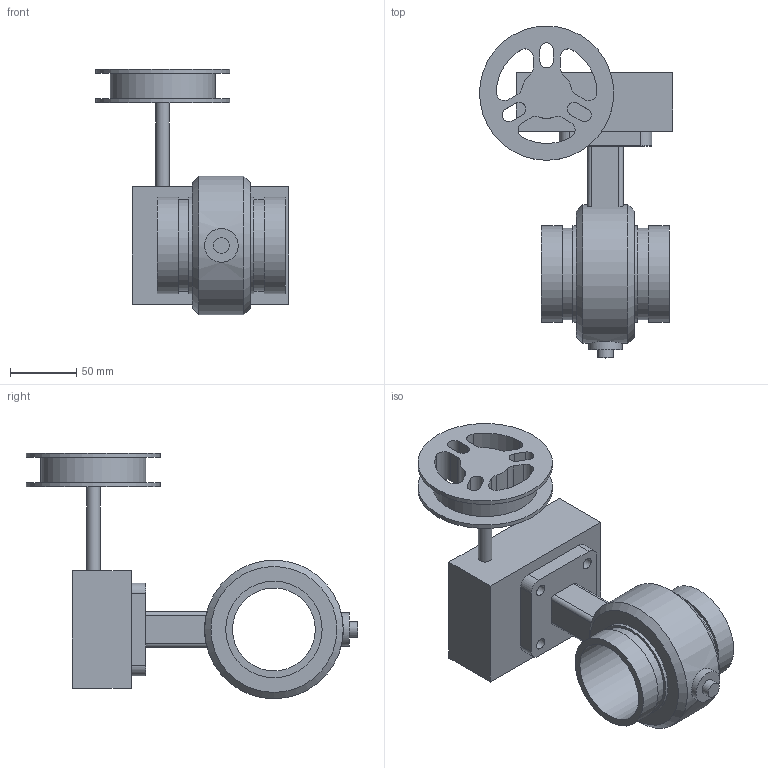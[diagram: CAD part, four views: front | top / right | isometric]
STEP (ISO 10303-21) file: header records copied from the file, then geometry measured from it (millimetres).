
FILE_DESCRIPTION(/* description */ ('VIC SS BUTTERFLY VALVE GO CW SERIES 250-S (OGS)'),/* implementation_level */ '2;1');
FILE_NAME(/* name */ 'C:\Files for Export\250-S\Victaulic_SS_Vlv Btfl GO CW_Series 250-S (OGS)\Victaulic_SS_Vlv Btfl GO CW_Series 250-S (OGS)_2.5 (65).stp',/* time_stamp */ '2024-10-14T13:12:29+02:00',/* author */ ('cps_temp'),/* organization */ ('Victaulic'),/* preprocessor_version */ 'ST-DEVELOPER v18.1',/* originating_system */ 'Autodesk Inventor 2020',/* authorisation */ '');
FILE_SCHEMA (('AUTOMOTIVE_DESIGN { 1 0 10303 214 3 1 1 }'));
Length unit declared in the file: inch
Products named in the file (1): 250-S4-02.5
Bounding box: 146.05 x 250.95 x 185.8 mm (x, y, z)
Volume: 918565.9 mm3; surface area: 146867.1 mm2
Topology: 1 solids, 2 shells, 101 faces, 258 edges, 179 vertices
Faces by surface type: cylinder 52, plane 47, cone 2
Full cylindrical faces by diameter (mm): 8.636 x4, 10.16 x1, 11.938 x2, 25.4 x1, 55.118 x1, 62.713 x1, 69.088 x2, 73.025 x4, 79.375 x1, 101.6 x2, 104.902 x1
Entity records: 3395 total; most frequent: CARTESIAN_POINT 610, DIRECTION 581, ORIENTED_EDGE 516, EDGE_CURVE 258, AXIS2_PLACEMENT_3D 228, VERTEX_POINT 179, EDGE_LOOP 135, CIRCLE 126
